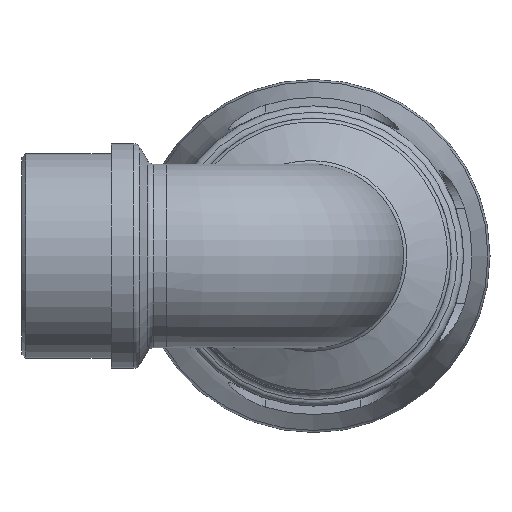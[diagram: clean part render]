
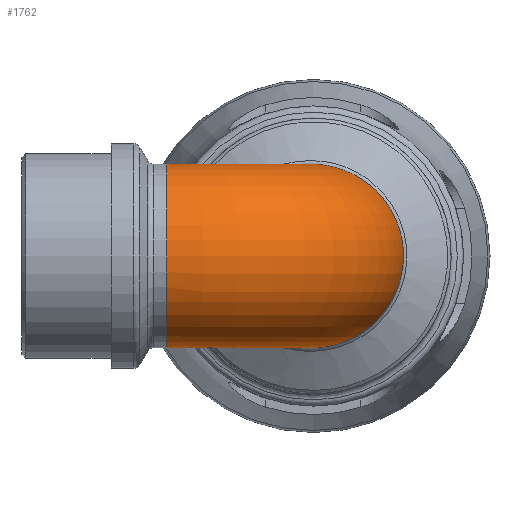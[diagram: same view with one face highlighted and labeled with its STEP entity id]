
A CAD part, left-side view. The second image highlights one B-rep face of the part: STEP entity #1762.
In plain terms, the highlighted toroidal (fillet/blend) face has major radius 42.752 mm and minor radius 26.826 mm.
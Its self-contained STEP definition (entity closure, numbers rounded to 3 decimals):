
#236=B_SPLINE_CURVE_WITH_KNOTS('',3,(#2685,#2686,#2687,#2688,#2689,#2690,
#2691,#2692,#2693,#2694,#2695,#2696,#2697,#2698,#2699,#2700,#2701,#2702,
#2703,#2704),.UNSPECIFIED.,.T.,.F.,(4,1,1,1,1,1,1,1,1,1,1,1,1,1,1,1,1,4),
(-3.142,-2.917,-2.693,-2.244,
-1.795,-1.346,-1.047,-0.748,
-0.449,-0.15,0.449,0.898,
1.346,1.795,2.244,2.693,2.917,
3.142),.UNSPECIFIED.);
#357=FACE_BOUND('',#512,.T.);
#389=FACE_OUTER_BOUND('',#511,.T.);
#511=EDGE_LOOP('',(#1167));
#512=EDGE_LOOP('',(#1168));
#634=CIRCLE('',#1873,26.826);
#731=VERTEX_POINT('',#2580);
#733=VERTEX_POINT('',#2683);
#894=EDGE_CURVE('',#731,#731,#634,.T.);
#896=EDGE_CURVE('',#733,#733,#236,.T.);
#1167=ORIENTED_EDGE('',*,*,#896,.F.);
#1168=ORIENTED_EDGE('',*,*,#894,.T.);
#1632=TOROIDAL_SURFACE('',#1887,42.753,26.826);
#1762=ADVANCED_FACE('',(#389,#357),#1632,.T.);
#1873=AXIS2_PLACEMENT_3D('',#2581,#2091,#2092);
#1887=AXIS2_PLACEMENT_3D('',#2952,#2120,#2121);
#2091=DIRECTION('center_axis',(0.,-1.,0.));
#2092=DIRECTION('ref_axis',(-1.,0.,0.));
#2120=DIRECTION('center_axis',(0.,0.,1.));
#2121=DIRECTION('ref_axis',(1.,0.,0.));
#2580=CARTESIAN_POINT('',(26.826,42.753,0.));
#2581=CARTESIAN_POINT('Origin',(0.,42.753,0.));
#2683=CARTESIAN_POINT('',(33.22,29.994,0.));
#2685=CARTESIAN_POINT('Ctrl Pts',(33.22,29.995,0.));
#2686=CARTESIAN_POINT('Ctrl Pts',(33.22,29.995,2.04));
#2687=CARTESIAN_POINT('Ctrl Pts',(33.221,29.402,6.118));
#2688=CARTESIAN_POINT('Ctrl Pts',(33.248,26.115,13.728));
#2689=CARTESIAN_POINT('Ctrl Pts',(33.374,19.061,21.571));
#2690=CARTESIAN_POINT('Ctrl Pts',(33.544,7.677,26.94));
#2691=CARTESIAN_POINT('Ctrl Pts',(33.648,-3.502,27.12));
#2692=CARTESIAN_POINT('Ctrl Pts',(33.71,-12.546,23.778));
#2693=CARTESIAN_POINT('Ctrl Pts',(33.747,-19.107,18.756));
#2694=CARTESIAN_POINT('Ctrl Pts',(33.769,-23.847,12.));
#2695=CARTESIAN_POINT('Ctrl Pts',(33.783,-27.203,1.503));
#2696=CARTESIAN_POINT('Ctrl Pts',(33.776,-25.24,-11.162));
#2697=CARTESIAN_POINT('Ctrl Pts',(33.734,-16.331,-21.935));
#2698=CARTESIAN_POINT('Ctrl Pts',(33.661,-4.904,-27.145));
#2699=CARTESIAN_POINT('Ctrl Pts',(33.544,7.679,-26.938));
#2700=CARTESIAN_POINT('Ctrl Pts',(33.375,19.062,-21.574));
#2701=CARTESIAN_POINT('Ctrl Pts',(33.248,26.115,-13.727));
#2702=CARTESIAN_POINT('Ctrl Pts',(33.221,29.402,-6.119));
#2703=CARTESIAN_POINT('Ctrl Pts',(33.22,29.995,-2.039));
#2704=CARTESIAN_POINT('Ctrl Pts',(33.22,29.995,0.));
#2952=CARTESIAN_POINT('Origin',(42.753,42.753,0.));
